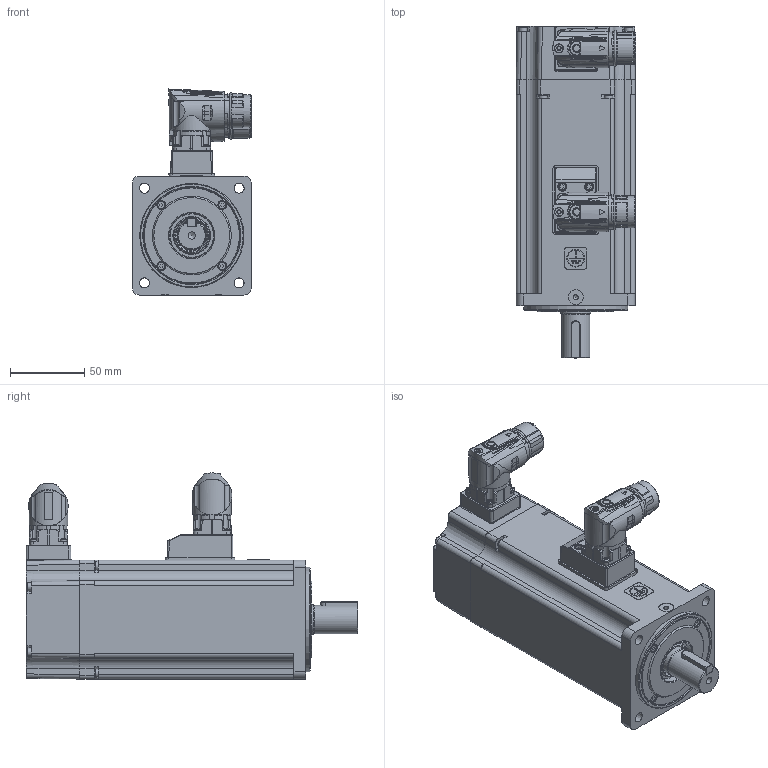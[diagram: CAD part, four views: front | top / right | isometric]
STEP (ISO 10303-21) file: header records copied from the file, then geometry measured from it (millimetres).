
FILE_DESCRIPTION( ( 'Unknown' ), '1' );
FILE_NAME( 'U:/05_Progetto TCE/010-TCE motor drawings/TCE80/vuoti/TCE80 3B XX 3 A1 1 C2.stp', 'Unknown', ( 'Unknown' ), ( 'Unknown' ), 'PSStep 17.0.49', 'Unknown', ' ' );
FILE_SCHEMA( ( 'AUTOMOTIVE_DESIGN { 1 0 10303 214 1 1 1 1 }' ) );
Length unit declared in the file: millimetre
Products named in the file (19): 003103001504
Bounding box: 80.3 x 223 x 138.5 mm (x, y, z)
Volume: 561551.2 mm3; surface area: 239670.3 mm2
Topology: 19 solids, 100 shells, 3072 faces, 7630 edges, 4907 vertices
Faces by surface type: plane 1469, cylinder 783, cone 281, bspline 218, torus 177, sphere 106, extrusion 38
Full cylindrical faces by diameter (mm): 1 x21, 1.2 x17, 1.4 x4, 1.5 x2, 2 x12, 2.013 x3, 2.2 x2, 2.459 x45, 2.5 x11, 2.65 x4, 2.7 x2, 2.8 x4, 3 x34, 3.2 x1, 3.242 x4, 3.4 x6, 3.5 x19, 4.4 x8, 4.5 x2, 4.7 x3, 4.917 x2, 5 x1, 5.5 x22, 5.8 x1, 5.9 x2, 6 x7, 6.8 x1, 8 x4, 10 x1, 11 x1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
Entity records: 122158 total; most frequent: CARTESIAN_POINT 33426, DIRECTION 13890, ORIENTED_EDGE 13262, EDGE_CURVE 6631, AXIS2_PLACEMENT_3D 5264, VERTEX_POINT 4660, EDGE_LOOP 4046, FACE_OUTER_BOUND 3528
